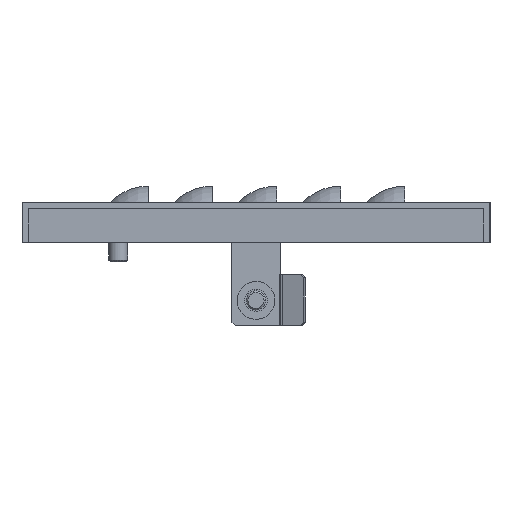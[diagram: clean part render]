
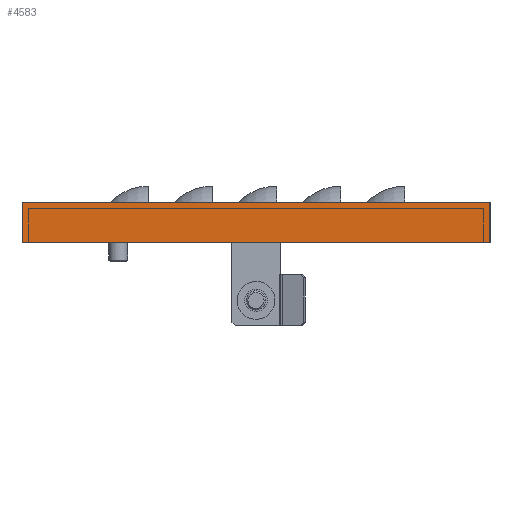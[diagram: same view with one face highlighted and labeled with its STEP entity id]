
A CAD part, left-side view. The second image highlights one B-rep face of the part: STEP entity #4583.
In plain terms, the highlighted planar face has unit normal (-1, 0, 0).
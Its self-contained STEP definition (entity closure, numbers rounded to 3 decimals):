
#598 = PLANE ( 'NONE',  #1270 ) ;
#1171 = CARTESIAN_POINT ( 'NONE',  ( -595., -73., 0. ) ) ;
#1270 = AXIS2_PLACEMENT_3D ( 'NONE', #21551, #5967, #19938 ) ;
#1807 = VERTEX_POINT ( 'NONE', #22464 ) ;
#2186 = CARTESIAN_POINT ( 'NONE',  ( -595., -146., 2.928 ) ) ;
#2212 = DIRECTION ( 'NONE',  ( 0., 0., -1. ) ) ;
#2989 = LINE ( 'NONE', #1171, #13432 ) ;
#3094 = DIRECTION ( 'NONE',  ( 0., 1., 0. ) ) ;
#3125 = VECTOR ( 'NONE', #22091, 1000. ) ;
#3144 = CARTESIAN_POINT ( 'NONE',  ( -595., -146., 0. ) ) ;
#3504 = CARTESIAN_POINT ( 'NONE',  ( -595., 0., -12.5 ) ) ;
#4583 = ADVANCED_FACE ( 'NONE', ( #17991 ), #598, .F. ) ;
#4939 = ORIENTED_EDGE ( 'NONE', *, *, #10582, .T. ) ;
#5649 = EDGE_CURVE ( 'NONE', #10934, #17890, #11022, .T. ) ;
#5967 = DIRECTION ( 'NONE',  ( 1., 0., 0. ) ) ;
#6219 = ORIENTED_EDGE ( 'NONE', *, *, #19057, .T. ) ;
#6409 = LINE ( 'NONE', #18901, #3125 ) ;
#6475 = VERTEX_POINT ( 'NONE', #3504 ) ;
#7161 = EDGE_LOOP ( 'NONE', ( #7686, #4939, #6219, #11449 ) ) ;
#7686 = ORIENTED_EDGE ( 'NONE', *, *, #14102, .T. ) ;
#7726 = CARTESIAN_POINT ( 'NONE',  ( -595., 0., 2.928 ) ) ;
#10582 = EDGE_CURVE ( 'NONE', #1807, #6475, #10809, .T. ) ;
#10809 = LINE ( 'NONE', #7726, #13444 ) ;
#10934 = VERTEX_POINT ( 'NONE', #3144 ) ;
#11022 = LINE ( 'NONE', #2186, #15592 ) ;
#11449 = ORIENTED_EDGE ( 'NONE', *, *, #5649, .F. ) ;
#13432 = VECTOR ( 'NONE', #3094, 1000. ) ;
#13444 = VECTOR ( 'NONE', #2212, 1000. ) ;
#14098 = DIRECTION ( 'NONE',  ( 0., 0., -1. ) ) ;
#14102 = EDGE_CURVE ( 'NONE', #10934, #1807, #2989, .T. ) ;
#15273 = CARTESIAN_POINT ( 'NONE',  ( -595., -146., -12.5 ) ) ;
#15592 = VECTOR ( 'NONE', #14098, 1000. ) ;
#17890 = VERTEX_POINT ( 'NONE', #15273 ) ;
#17991 = FACE_OUTER_BOUND ( 'NONE', #7161, .T. ) ;
#18901 = CARTESIAN_POINT ( 'NONE',  ( -595., -73., -12.5 ) ) ;
#19057 = EDGE_CURVE ( 'NONE', #6475, #17890, #6409, .T. ) ;
#19938 = DIRECTION ( 'NONE',  ( 0., 1., 0. ) ) ;
#21551 = CARTESIAN_POINT ( 'NONE',  ( -595., -73., -2. ) ) ;
#22091 = DIRECTION ( 'NONE',  ( 0., -1., 0. ) ) ;
#22464 = CARTESIAN_POINT ( 'NONE',  ( -595., 0., 0. ) ) ;
